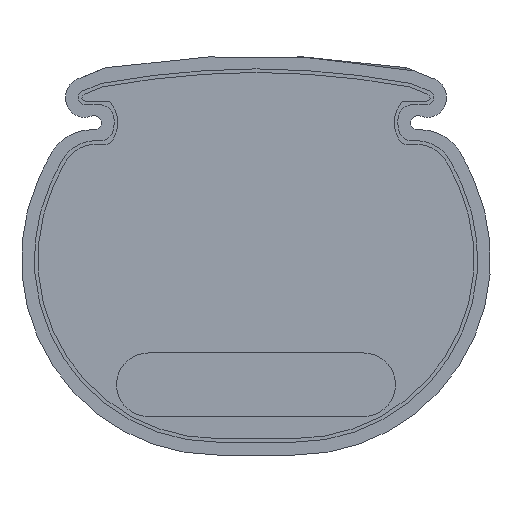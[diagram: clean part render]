
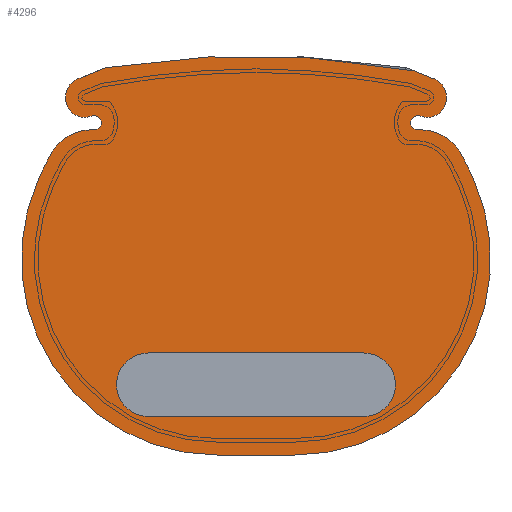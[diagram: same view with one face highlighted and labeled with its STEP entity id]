
A CAD part, left-side view. The second image highlights one B-rep face of the part: STEP entity #4296.
In plain terms, the highlighted planar face has unit normal (-1, 0, 0).
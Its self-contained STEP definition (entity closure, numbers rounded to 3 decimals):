
#155=FACE_BOUND('',#604,.T.);
#205=PLANE('',#4712);
#378=FACE_OUTER_BOUND('',#603,.T.);
#603=EDGE_LOOP('',(#3585,#3586,#3587,#3588,#3589,#3590,#3591,#3592,#3593,
#3594,#3595,#3596,#3597,#3598,#3599,#3600,#3601,#3602));
#604=EDGE_LOOP('',(#3603,#3604,#3605,#3606));
#846=CIRCLE('',#4602,4.422);
#884=CIRCLE('',#4650,4.422);
#885=CIRCLE('',#4654,51.838);
#886=CIRCLE('',#4656,27.3);
#887=CIRCLE('',#4659,27.3);
#888=CIRCLE('',#4661,51.838);
#889=CIRCLE('',#4663,7.3);
#890=CIRCLE('',#4665,2.8);
#902=CIRCLE('',#4694,1.);
#903=CIRCLE('',#4696,2.8);
#904=CIRCLE('',#4698,7.3);
#905=CIRCLE('',#4700,2.46);
#906=CIRCLE('',#4702,6.34);
#907=CIRCLE('',#4704,1.);
#908=CIRCLE('',#4706,2.46);
#909=CIRCLE('',#4708,6.34);
#910=CIRCLE('',#4710,125.078);
#1126=LINE('',#7366,#1407);
#1155=LINE('',#7503,#1436);
#1156=LINE('',#7510,#1437);
#1161=LINE('',#7524,#1442);
#1168=LINE('',#7549,#1449);
#1407=VECTOR('',#5408,10.);
#1436=VECTOR('',#5541,10.);
#1437=VECTOR('',#5544,10.);
#1442=VECTOR('',#5559,10.);
#1449=VECTOR('',#5584,10.);
#1819=VERTEX_POINT('',#7363);
#1820=VERTEX_POINT('',#7365);
#1822=VERTEX_POINT('',#7371);
#1876=VERTEX_POINT('',#7498);
#1877=VERTEX_POINT('',#7505);
#1878=VERTEX_POINT('',#7509);
#1879=VERTEX_POINT('',#7513);
#1880=VERTEX_POINT('',#7515);
#1881=VERTEX_POINT('',#7519);
#1882=VERTEX_POINT('',#7523);
#1883=VERTEX_POINT('',#7527);
#1884=VERTEX_POINT('',#7531);
#1885=VERTEX_POINT('',#7535);
#1886=VERTEX_POINT('',#7539);
#1887=VERTEX_POINT('',#7541);
#1888=VERTEX_POINT('',#7545);
#1901=VERTEX_POINT('',#7605);
#1902=VERTEX_POINT('',#7606);
#1903=VERTEX_POINT('',#7611);
#1904=VERTEX_POINT('',#7615);
#1905=VERTEX_POINT('',#7623);
#1906=VERTEX_POINT('',#7624);
#2375=EDGE_CURVE('',#1820,#1819,#1126,.T.);
#2379=EDGE_CURVE('',#1819,#1822,#846,.T.);
#2441=EDGE_CURVE('',#1876,#1820,#884,.T.);
#2444=EDGE_CURVE('',#1822,#1876,#1155,.T.);
#2446=EDGE_CURVE('',#1878,#1877,#1156,.T.);
#2449=EDGE_CURVE('',#1880,#1879,#885,.T.);
#2451=EDGE_CURVE('',#1881,#1880,#886,.T.);
#2453=EDGE_CURVE('',#1882,#1881,#1161,.T.);
#2455=EDGE_CURVE('',#1883,#1882,#887,.T.);
#2457=EDGE_CURVE('',#1884,#1883,#888,.T.);
#2460=EDGE_CURVE('',#1885,#1884,#889,.T.);
#2462=EDGE_CURVE('',#1887,#1886,#890,.T.);
#2465=EDGE_CURVE('',#1888,#1887,#1168,.T.);
#2493=EDGE_CURVE('',#1901,#1902,#902,.T.);
#2497=EDGE_CURVE('',#1903,#1878,#903,.T.);
#2499=EDGE_CURVE('',#1879,#1904,#904,.T.);
#2500=EDGE_CURVE('',#1902,#1903,#905,.T.);
#2501=EDGE_CURVE('',#1904,#1901,#906,.T.);
#2502=EDGE_CURVE('',#1905,#1906,#907,.T.);
#2505=EDGE_CURVE('',#1886,#1905,#908,.T.);
#2506=EDGE_CURVE('',#1906,#1885,#909,.T.);
#2507=EDGE_CURVE('',#1877,#1888,#910,.T.);
#3585=ORIENTED_EDGE('',*,*,#2507,.T.);
#3586=ORIENTED_EDGE('',*,*,#2465,.T.);
#3587=ORIENTED_EDGE('',*,*,#2462,.T.);
#3588=ORIENTED_EDGE('',*,*,#2505,.T.);
#3589=ORIENTED_EDGE('',*,*,#2502,.T.);
#3590=ORIENTED_EDGE('',*,*,#2506,.T.);
#3591=ORIENTED_EDGE('',*,*,#2460,.T.);
#3592=ORIENTED_EDGE('',*,*,#2457,.T.);
#3593=ORIENTED_EDGE('',*,*,#2455,.T.);
#3594=ORIENTED_EDGE('',*,*,#2453,.T.);
#3595=ORIENTED_EDGE('',*,*,#2451,.T.);
#3596=ORIENTED_EDGE('',*,*,#2449,.T.);
#3597=ORIENTED_EDGE('',*,*,#2499,.T.);
#3598=ORIENTED_EDGE('',*,*,#2501,.T.);
#3599=ORIENTED_EDGE('',*,*,#2493,.T.);
#3600=ORIENTED_EDGE('',*,*,#2500,.T.);
#3601=ORIENTED_EDGE('',*,*,#2497,.T.);
#3602=ORIENTED_EDGE('',*,*,#2446,.T.);
#3603=ORIENTED_EDGE('',*,*,#2444,.T.);
#3604=ORIENTED_EDGE('',*,*,#2441,.T.);
#3605=ORIENTED_EDGE('',*,*,#2375,.T.);
#3606=ORIENTED_EDGE('',*,*,#2379,.T.);
#4296=ADVANCED_FACE('',(#378,#155),#205,.F.);
#4602=AXIS2_PLACEMENT_3D('',#7373,#5415,#5416);
#4650=AXIS2_PLACEMENT_3D('',#7499,#5535,#5536);
#4654=AXIS2_PLACEMENT_3D('',#7516,#5549,#5550);
#4656=AXIS2_PLACEMENT_3D('',#7520,#5554,#5555);
#4659=AXIS2_PLACEMENT_3D('',#7528,#5563,#5564);
#4661=AXIS2_PLACEMENT_3D('',#7532,#5568,#5569);
#4663=AXIS2_PLACEMENT_3D('',#7537,#5574,#5575);
#4665=AXIS2_PLACEMENT_3D('',#7542,#5579,#5580);
#4694=AXIS2_PLACEMENT_3D('',#7607,#5655,#5656);
#4696=AXIS2_PLACEMENT_3D('',#7613,#5662,#5663);
#4698=AXIS2_PLACEMENT_3D('',#7617,#5667,#5668);
#4700=AXIS2_PLACEMENT_3D('',#7619,#5671,#5672);
#4702=AXIS2_PLACEMENT_3D('',#7621,#5675,#5676);
#4704=AXIS2_PLACEMENT_3D('',#7625,#5679,#5680);
#4706=AXIS2_PLACEMENT_3D('',#7629,#5685,#5686);
#4708=AXIS2_PLACEMENT_3D('',#7631,#5689,#5690);
#4710=AXIS2_PLACEMENT_3D('',#7633,#5693,#5694);
#4712=AXIS2_PLACEMENT_3D('',#7635,#5697,#5698);
#5408=DIRECTION('',(0.,-1.,0.));
#5415=DIRECTION('center_axis',(1.,0.,0.));
#5416=DIRECTION('ref_axis',(0.,0.,1.));
#5535=DIRECTION('center_axis',(1.,0.,0.));
#5536=DIRECTION('ref_axis',(0.,0.,-1.));
#5541=DIRECTION('',(0.,1.,0.));
#5544=DIRECTION('',(0.,0.927,0.375));
#5549=DIRECTION('center_axis',(-1.,0.,0.));
#5550=DIRECTION('ref_axis',(0.,-0.913,0.408));
#5554=DIRECTION('center_axis',(-1.,0.,0.));
#5555=DIRECTION('ref_axis',(0.,0.,-1.));
#5559=DIRECTION('',(0.,-1.,0.));
#5563=DIRECTION('center_axis',(-1.,0.,0.));
#5564=DIRECTION('ref_axis',(0.,0.913,0.408));
#5568=DIRECTION('center_axis',(-1.,0.,0.));
#5569=DIRECTION('ref_axis',(0.,0.882,0.472));
#5574=DIRECTION('center_axis',(-1.,0.,0.));
#5575=DIRECTION('ref_axis',(0.,0.,1.));
#5579=DIRECTION('center_axis',(-1.,0.,0.));
#5580=DIRECTION('ref_axis',(0.,0.375,0.927));
#5584=DIRECTION('',(0.,0.927,-0.375));
#5655=DIRECTION('center_axis',(1.,0.,0.));
#5656=DIRECTION('ref_axis',(0.,-0.052,-0.999));
#5662=DIRECTION('center_axis',(-1.,0.,0.));
#5663=DIRECTION('ref_axis',(0.,0.,-1.));
#5667=DIRECTION('center_axis',(-1.,0.,0.));
#5668=DIRECTION('ref_axis',(0.,-0.882,0.472));
#5671=DIRECTION('center_axis',(-1.,0.,0.));
#5672=DIRECTION('ref_axis',(0.,0.414,0.91));
#5675=DIRECTION('center_axis',(-1.,0.,0.));
#5676=DIRECTION('ref_axis',(0.,-0.052,-0.999));
#5679=DIRECTION('center_axis',(1.,0.,0.));
#5680=DIRECTION('ref_axis',(0.,0.052,-0.999));
#5685=DIRECTION('center_axis',(-1.,0.,0.));
#5686=DIRECTION('ref_axis',(0.,-0.414,0.91));
#5689=DIRECTION('center_axis',(-1.,0.,0.));
#5690=DIRECTION('ref_axis',(0.,0.052,-0.999));
#5693=DIRECTION('center_axis',(-1.,0.,0.));
#5694=DIRECTION('ref_axis',(0.,-0.182,0.983));
#5697=DIRECTION('center_axis',(1.,0.,0.));
#5698=DIRECTION('ref_axis',(0.,0.,-1.));
#7363=CARTESIAN_POINT('',(-541.828,-16.071,-13.578));
#7365=CARTESIAN_POINT('',(-541.828,13.929,-13.578));
#7366=CARTESIAN_POINT('',(-541.828,-8.571,-13.578));
#7371=CARTESIAN_POINT('',(-541.828,-16.071,-22.422));
#7373=CARTESIAN_POINT('Origin',(-541.828,-16.071,-18.));
#7498=CARTESIAN_POINT('',(-541.828,13.929,-22.422));
#7499=CARTESIAN_POINT('Origin',(-541.828,13.929,-18.));
#7503=CARTESIAN_POINT('',(-541.828,6.429,-22.422));
#7505=CARTESIAN_POINT('',(-541.828,-23.129,25.706));
#7509=CARTESIAN_POINT('',(-541.828,-25.87,24.599));
#7510=CARTESIAN_POINT('',(-541.828,-25.87,24.599));
#7513=CARTESIAN_POINT('',(-541.828,-29.755,13.945));
#7515=CARTESIAN_POINT('',(-541.828,-31.379,10.629));
#7516=CARTESIAN_POINT('Origin',(-541.828,15.958,-10.499));
#7519=CARTESIAN_POINT('',(-541.828,-6.449,-27.798));
#7520=CARTESIAN_POINT('Origin',(-541.828,-6.449,-0.498));
#7523=CARTESIAN_POINT('',(-541.828,4.307,-27.798));
#7524=CARTESIAN_POINT('',(-541.828,4.307,-27.798));
#7527=CARTESIAN_POINT('',(-541.828,29.237,10.629));
#7528=CARTESIAN_POINT('Origin',(-541.828,4.307,-0.498));
#7531=CARTESIAN_POINT('',(-541.828,27.613,13.945));
#7532=CARTESIAN_POINT('Origin',(-541.828,-18.1,-10.499));
#7535=CARTESIAN_POINT('',(-541.828,26.398,15.603));
#7537=CARTESIAN_POINT('Origin',(-541.828,21.176,10.502));
#7539=CARTESIAN_POINT('',(-541.828,23.838,19.453));
#7541=CARTESIAN_POINT('',(-541.828,23.728,24.599));
#7542=CARTESIAN_POINT('Origin',(-541.828,22.679,22.003));
#7545=CARTESIAN_POINT('',(-541.828,19.868,26.158));
#7549=CARTESIAN_POINT('',(-541.828,20.987,25.706));
#7605=CARTESIAN_POINT('',(-541.828,-23.674,17.504));
#7606=CARTESIAN_POINT('',(-541.828,-24.009,19.425));
#7607=CARTESIAN_POINT('Origin',(-541.828,-23.622,18.503));
#7611=CARTESIAN_POINT('',(-541.828,-25.98,19.453));
#7613=CARTESIAN_POINT('Origin',(-541.828,-24.821,22.003));
#7615=CARTESIAN_POINT('',(-541.828,-28.54,15.603));
#7617=CARTESIAN_POINT('Origin',(-541.828,-23.318,10.502));
#7619=CARTESIAN_POINT('Origin',(-541.828,-24.962,21.693));
#7621=CARTESIAN_POINT('Origin',(-541.828,-24.004,11.173));
#7623=CARTESIAN_POINT('',(-541.828,21.867,19.425));
#7624=CARTESIAN_POINT('',(-541.828,21.532,17.504));
#7625=CARTESIAN_POINT('Origin',(-541.828,21.48,18.503));
#7629=CARTESIAN_POINT('Origin',(-541.828,22.82,21.693));
#7631=CARTESIAN_POINT('Origin',(-541.828,21.862,11.173));
#7633=CARTESIAN_POINT('Origin',(-541.828,-0.335,-97.278));
#7635=CARTESIAN_POINT('Origin',(-541.828,-1.071,2.04));
